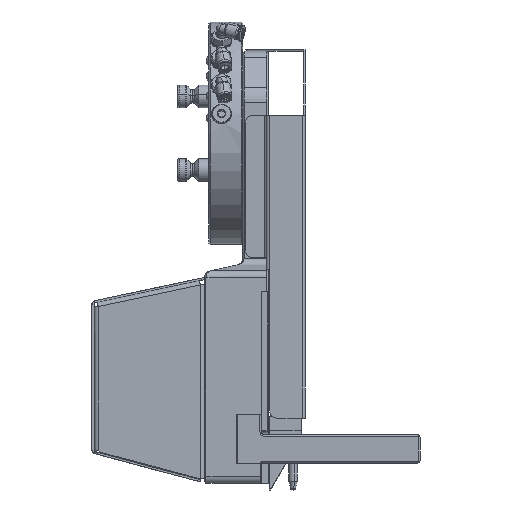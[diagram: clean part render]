
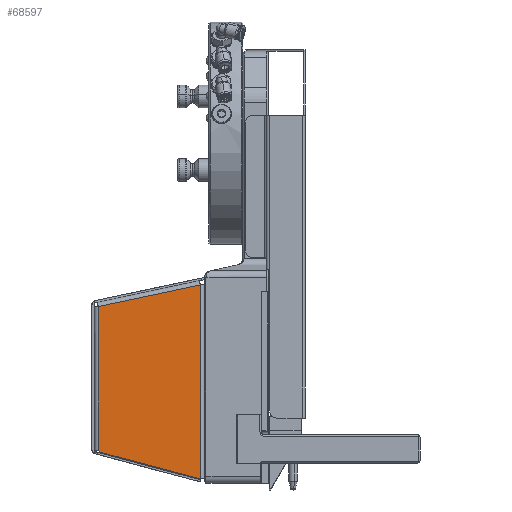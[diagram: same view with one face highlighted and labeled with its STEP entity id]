
A CAD part, left-side view. The second image highlights one B-rep face of the part: STEP entity #68597.
In plain terms, the highlighted planar face has unit normal (-1, 0, 0).
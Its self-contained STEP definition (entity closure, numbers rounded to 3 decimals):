
#2438 = LINE ( 'NONE', #79493, #32764 ) ;
#4361 = CARTESIAN_POINT ( 'NONE',  ( -92., 102., -223.708 ) ) ;
#14193 = ORIENTED_EDGE ( 'NONE', *, *, #78341, .T. ) ;
#17071 = EDGE_CURVE ( 'NONE', #112858, #20479, #78224, .T. ) ;
#17402 = CARTESIAN_POINT ( 'NONE',  ( -92., 30., -107. ) ) ;
#20479 = VERTEX_POINT ( 'NONE', #36349 ) ;
#21181 = CARTESIAN_POINT ( 'NONE',  ( -92., 30., -244. ) ) ;
#23984 = AXIS2_PLACEMENT_3D ( 'NONE', #118587, #90956, #33984 ) ;
#25579 = DIRECTION ( 'NONE',  ( 0., 0., -1. ) ) ;
#28597 = AXIS2_PLACEMENT_3D ( 'NONE', #114833, #41227, #30781 ) ;
#30781 = DIRECTION ( 'NONE',  ( 0., -1., 0. ) ) ;
#32764 = VECTOR ( 'NONE', #107061, 1000. ) ;
#33635 = ORIENTED_EDGE ( 'NONE', *, *, #73138, .F. ) ;
#33984 = DIRECTION ( 'NONE',  ( 0., -1., 0. ) ) ;
#35766 = LINE ( 'NONE', #17402, #36033 ) ;
#36033 = VECTOR ( 'NONE', #48013, 1000. ) ;
#36349 = CARTESIAN_POINT ( 'NONE',  ( -92., 99.397, -225.405 ) ) ;
#38461 = ORIENTED_EDGE ( 'NONE', *, *, #17071, .F. ) ;
#39824 = EDGE_CURVE ( 'NONE', #97730, #53107, #2438, .T. ) ;
#40197 = DIRECTION ( 'NONE',  ( 0., 0.966, 0.259 ) ) ;
#41227 = DIRECTION ( 'NONE',  ( -1., 0., 0. ) ) ;
#44015 = ORIENTED_EDGE ( 'NONE', *, *, #39824, .T. ) ;
#46480 = CARTESIAN_POINT ( 'NONE',  ( -92., 30., -107. ) ) ;
#48013 = DIRECTION ( 'NONE',  ( 0., -0.978, 0.208 ) ) ;
#53107 = VERTEX_POINT ( 'NONE', #4361 ) ;
#53614 = VECTOR ( 'NONE', #40197, 1000. ) ;
#60112 = ORIENTED_EDGE ( 'NONE', *, *, #90044, .F. ) ;
#62653 = EDGE_LOOP ( 'NONE', ( #44015, #14193, #38461, #33635, #60112 ) ) ;
#65050 = VERTEX_POINT ( 'NONE', #46480 ) ;
#68597 = ADVANCED_FACE ( 'NONE', ( #120390 ), #101385, .T. ) ;
#70520 = CARTESIAN_POINT ( 'NONE',  ( -92., 30., -244. ) ) ;
#72188 = LINE ( 'NONE', #109607, #113076 ) ;
#73138 = EDGE_CURVE ( 'NONE', #65050, #112858, #72188, .T. ) ;
#78224 = LINE ( 'NONE', #21181, #53614 ) ;
#78341 = EDGE_CURVE ( 'NONE', #53107, #20479, #89348, .T. ) ;
#79493 = CARTESIAN_POINT ( 'NONE',  ( -92., 102., -122.138 ) ) ;
#89348 = CIRCLE ( 'NONE', #28597, 5. ) ;
#90044 = EDGE_CURVE ( 'NONE', #97730, #65050, #35766, .T. ) ;
#90956 = DIRECTION ( 'NONE',  ( -1., 0., 0. ) ) ;
#97730 = VERTEX_POINT ( 'NONE', #111529 ) ;
#101385 = PLANE ( 'NONE',  #23984 ) ;
#107061 = DIRECTION ( 'NONE',  ( 0., 0., -1. ) ) ;
#109607 = CARTESIAN_POINT ( 'NONE',  ( -92., 30., -244. ) ) ;
#111529 = CARTESIAN_POINT ( 'NONE',  ( -92., 102., -122.304 ) ) ;
#112858 = VERTEX_POINT ( 'NONE', #70520 ) ;
#113076 = VECTOR ( 'NONE', #25579, 1000. ) ;
#114833 = CARTESIAN_POINT ( 'NONE',  ( -92., 98.103, -220.576 ) ) ;
#118587 = CARTESIAN_POINT ( 'NONE',  ( -92., 30., -244. ) ) ;
#120390 = FACE_OUTER_BOUND ( 'NONE', #62653, .T. ) ;
